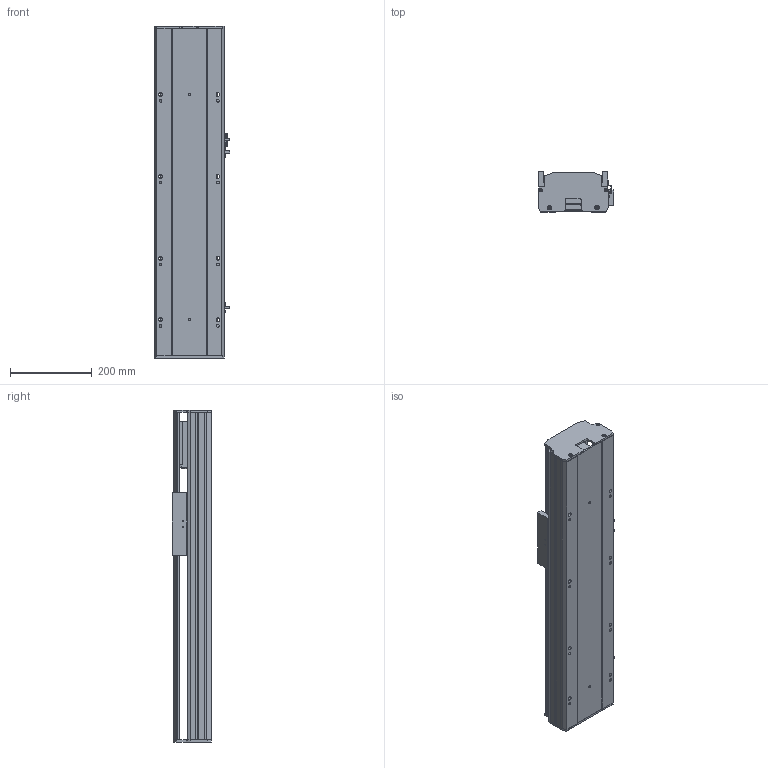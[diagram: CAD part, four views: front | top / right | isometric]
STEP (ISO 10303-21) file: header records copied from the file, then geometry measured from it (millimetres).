
FILE_DESCRIPTION (( 'STEP AP203' ), '1' );
FILE_NAME ('Y170-D10-S400-M-P400W.STEP', '2020-01-22T12:38:15', ( '微软用户' ), ( '微软中国' ), 'SwSTEP 2.0', 'SolidWorks 2017', '' );
FILE_SCHEMA (( 'CONFIG_CONTROL_DESIGN' ));
Length unit declared in the file: millimetre
Products named in the file (10): Y170-陔遴奻裔-M; YD-Y100-135-新外置传感挡片(通用）; Y170-D10-S400-M-P400W; Y100-135俋离換覜ん; 135-盓傅釱-FK15; Y170耜裔--準---; Y170--雄赽釱-梓--; 170--掛极-M; Y170耜裔--準---M; san松下电机400不带刹车----
Assembly tree (11 placements, depth 2):
  Y170-D10-S400-M-P400W
    YD-Y100-135-新外置传感挡片(通用）
    Y100-135俋离換覜ん  x3
    135-盓傅釱-FK15
    Y170耜裔--準---
    Y170--雄赽釱-梓--
    170--掛极-M
    Y170耜裔--準---M
    san松下电机400不带刹车----
    Y170-陔遴奻裔-M
Bounding box: 183.5 x 97 x 811 mm (x, y, z)
Volume: 3809748.1 mm3; surface area: 1307096 mm2
Topology: 11 solids, 11 shells, 761 faces, 2132 edges, 1412 vertices
Faces by surface type: plane 384, cylinder 375, torus 2
Entity records: 24300 total; most frequent: CARTESIAN_POINT 4225, DIRECTION 4062, ORIENTED_EDGE 3928, EDGE_CURVE 1964, AXIS2_PLACEMENT_3D 1433, VERTEX_POINT 1300, VECTOR 1196, LINE 1196
